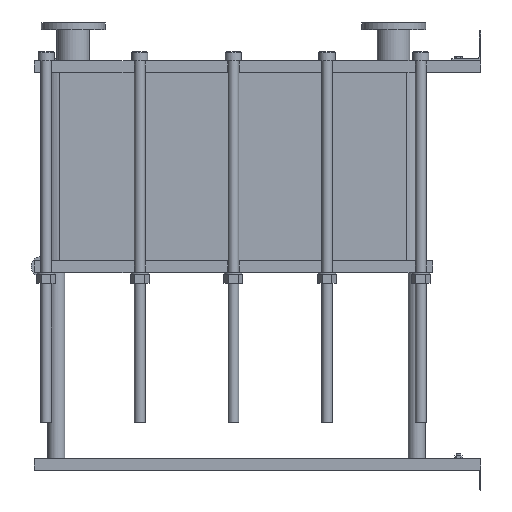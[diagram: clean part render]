
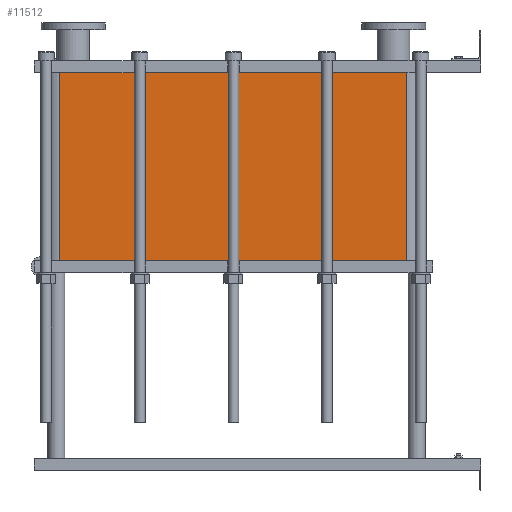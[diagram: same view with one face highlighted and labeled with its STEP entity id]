
A CAD part, left-side view. The second image highlights one B-rep face of the part: STEP entity #11512.
In plain terms, the highlighted planar face has unit normal (-1, 0, 0).
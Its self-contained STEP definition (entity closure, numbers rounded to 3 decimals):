
#1129=LINE('',#23232,#2102);
#1130=LINE('',#23236,#2103);
#1131=LINE('',#23238,#2104);
#1132=LINE('',#23239,#2105);
#2102=VECTOR('',#15887,10.);
#2103=VECTOR('',#15892,10.);
#2104=VECTOR('',#15893,10.);
#2105=VECTOR('',#15894,10.);
#3267=FACE_OUTER_BOUND('',#4093,.T.);
#4093=EDGE_LOOP('',(#10103,#10104,#10105,#10106));
#5642=VERTEX_POINT('',#23229);
#5643=VERTEX_POINT('',#23231);
#5644=VERTEX_POINT('',#23235);
#5645=VERTEX_POINT('',#23237);
#7159=EDGE_CURVE('',#5643,#5642,#1129,.T.);
#7161=EDGE_CURVE('',#5642,#5644,#1130,.T.);
#7162=EDGE_CURVE('',#5645,#5644,#1131,.T.);
#7163=EDGE_CURVE('',#5645,#5643,#1132,.T.);
#10103=ORIENTED_EDGE('',*,*,#7161,.T.);
#10104=ORIENTED_EDGE('',*,*,#7162,.F.);
#10105=ORIENTED_EDGE('',*,*,#7163,.T.);
#10106=ORIENTED_EDGE('',*,*,#7159,.T.);
#10857=PLANE('',#12751);
#11512=ADVANCED_FACE('',(#3267),#10857,.T.);
#12751=AXIS2_PLACEMENT_3D('',#23234,#15890,#15891);
#15887=DIRECTION('',(0.,0.,-1.));
#15890=DIRECTION('center_axis',(-1.,0.,0.));
#15891=DIRECTION('ref_axis',(0.,1.,0.));
#15892=DIRECTION('',(0.,-1.,0.));
#15893=DIRECTION('',(0.,0.,-1.));
#15894=DIRECTION('',(0.,1.,0.));
#23229=CARTESIAN_POINT('',(-200.,1414.,-631.35));
#23231=CARTESIAN_POINT('',(-200.,1414.,0.));
#23232=CARTESIAN_POINT('',(-200.,1414.,0.));
#23234=CARTESIAN_POINT('Origin',(-200.,248.,0.));
#23235=CARTESIAN_POINT('',(-200.,248.,-631.35));
#23236=CARTESIAN_POINT('',(-200.,539.5,-631.35));
#23237=CARTESIAN_POINT('',(-200.,248.,0.));
#23238=CARTESIAN_POINT('',(-200.,248.,0.));
#23239=CARTESIAN_POINT('',(-200.,248.,0.));
